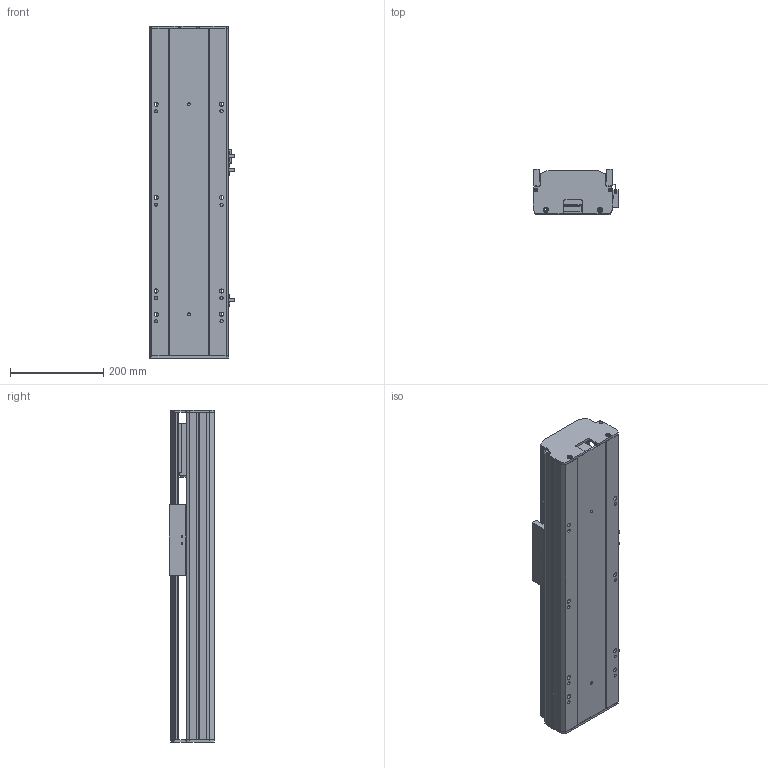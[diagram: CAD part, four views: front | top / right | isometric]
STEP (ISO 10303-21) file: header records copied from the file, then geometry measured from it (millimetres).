
FILE_DESCRIPTION (( 'STEP AP203' ), '1' );
FILE_NAME ('Y170-D10-S300-M-P400W.STEP', '2020-01-22T12:36:13', ( '微软用户' ), ( '微软中国' ), 'SwSTEP 2.0', 'SolidWorks 2017', '' );
FILE_SCHEMA (( 'CONFIG_CONTROL_DESIGN' ));
Length unit declared in the file: millimetre
Products named in the file (10): Y170-D10-S300-M-P400W; Y100-135俋离換覜ん; 135-盓傅釱-FK15; Y170耜裔--準---; Y170--雄赽釱-梓--; 170--掛极-M; Y170耜裔--準---M; san松下电机400不带刹车----; Y170-陔遴奻裔-M; YD-Y100-135-新外置传感挡片(通用）
Assembly tree (11 placements, depth 2):
  Y170-D10-S300-M-P400W
    YD-Y100-135-新外置传感挡片(通用）
    Y100-135俋离換覜ん  x3
    135-盓傅釱-FK15
    Y170耜裔--準---
    Y170--雄赽釱-梓--
    170--掛极-M
    Y170耜裔--準---M
    san松下电机400不带刹车----
    Y170-陔遴奻裔-M
Bounding box: 183.5 x 97 x 711 mm (x, y, z)
Volume: 3435644.5 mm3; surface area: 1167877.2 mm2
Topology: 11 solids, 11 shells, 761 faces, 2132 edges, 1412 vertices
Faces by surface type: plane 384, cylinder 375, torus 2
Entity records: 24300 total; most frequent: CARTESIAN_POINT 4225, DIRECTION 4062, ORIENTED_EDGE 3928, EDGE_CURVE 1964, AXIS2_PLACEMENT_3D 1433, VERTEX_POINT 1300, VECTOR 1196, LINE 1196
